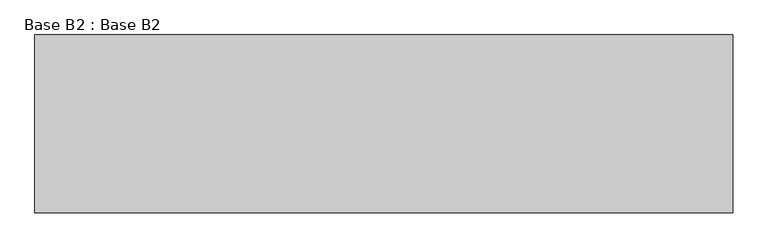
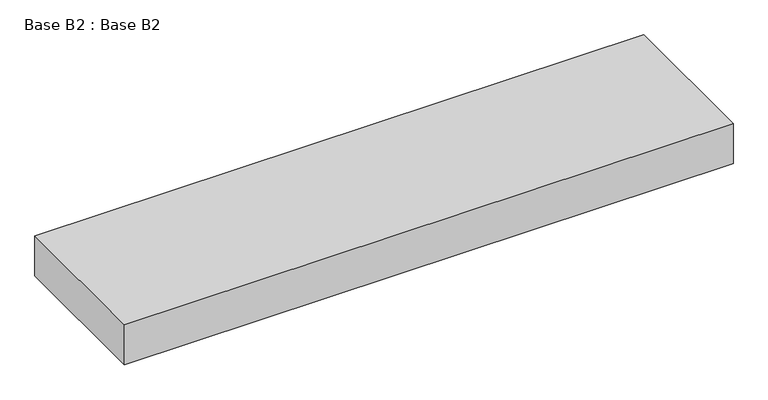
"""IFC4 building model written with IfcOpenShell, lengths in millimetres: furniture geometry, Base B2 : Base B2."""

from ifc_helpers import new_model, si_unit, origin, origin_with_axes, place, context, project, spatial, polyline, outline, extrude, source, transform, mapped, element, save


def base_b2_base_b2_ed49b66d(model_context):
    return source(origin(), model_context, "Body", "SweptSolid", [
        extrude(outline(polyline([(-1647.3834094, -4167.0637549), (-1647.3834094, -3617.0637549), (512.6165906, -3617.0637549), (512.6165906, -4167.0637549), (-1647.3834094, -4167.0637549)])), origin_with_axes(), (0.0, 0.0, 1.0), 150.0),
    ])


if __name__ == "__main__":
    model = new_model("IFC4")
    model_context = context("Model", 3, world=origin())
    ifc_project = project(units=[si_unit("LENGTHUNIT", "METRE", prefix="MILLI")], contexts=[model_context])
    site = spatial("IfcSite", under=ifc_project)
    building = spatial("IfcBuilding", under=site)
    placement = place(None, origin())
    base_b2_base_b2_shape = base_b2_base_b2_ed49b66d(model_context)
    element("IfcFurniture", 1, ObjectType="Base B2 : Base B2", at=placement, inside=building, context=model_context, shape_type="MappedRepresentation", body=[
        mapped(base_b2_base_b2_shape, transform((0.0, 0.0, 0.0), x_axis=(1.0, 0.0, 0.0), y_axis=(0.0, 1.0, 0.0), z_axis=(0.0, 0.0, 1.0))),
    ])
    save(model, "model.ifc")
